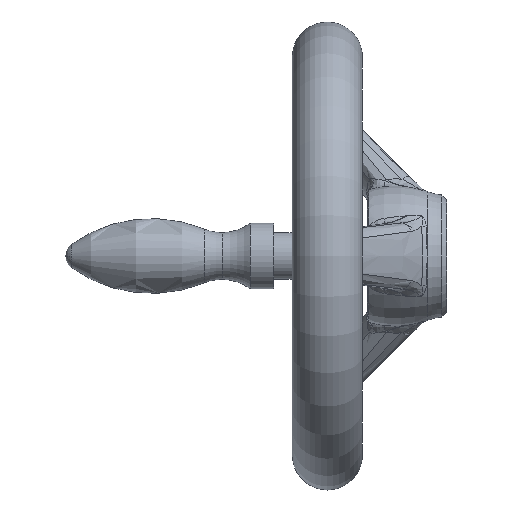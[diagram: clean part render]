
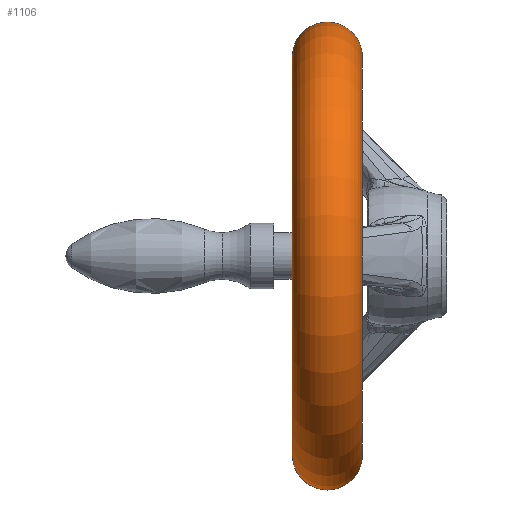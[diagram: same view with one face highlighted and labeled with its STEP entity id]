
A CAD part, left-side view. The second image highlights one B-rep face of the part: STEP entity #1106.
In plain terms, the highlighted toroidal (fillet/blend) face has major radius 42.5 mm and minor radius 7.5 mm.
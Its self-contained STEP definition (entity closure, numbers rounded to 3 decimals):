
#1102 = EDGE_LOOP ( 'NONE', ( #1949, #19471, #19548, #19532 ) ) ;
#1106 = ADVANCED_FACE ( 'NONE', ( #16532 ), #16557, .T. ) ;
#1949 = ORIENTED_EDGE ( 'NONE', *, *, #15662, .F. ) ;
#10090 = CARTESIAN_POINT ( 'NONE',  ( 0., 18., 42.5 ) ) ;
#10095 = CARTESIAN_POINT ( 'NONE',  ( 0., 18., 0. ) ) ;
#10096 = CARTESIAN_POINT ( 'NONE',  ( 0., 18., -42.5 ) ) ;
#10250 = DIRECTION ( 'NONE',  ( 0., 0., -1. ) ) ;
#10251 = AXIS2_PLACEMENT_3D ( 'NONE', #10095, #10257, #10250 ) ;
#10253 = CIRCLE ( 'NONE', #10251, 42.5 ) ;
#10257 = DIRECTION ( 'NONE',  ( 0., -1., 0. ) ) ;
#10394 = DIRECTION ( 'NONE',  ( 0., 0., 1. ) ) ;
#10395 = DIRECTION ( 'NONE',  ( -1., 0., 0. ) ) ;
#10396 = CARTESIAN_POINT ( 'NONE',  ( 0., 25.5, -42.5 ) ) ;
#10397 = AXIS2_PLACEMENT_3D ( 'NONE', #10396, #10395, #10394 ) ;
#10405 = CIRCLE ( 'NONE', #10397, 7.5 ) ;
#10723 = CARTESIAN_POINT ( 'NONE',  ( 0., 33., -42.5 ) ) ;
#10735 = DIRECTION ( 'NONE',  ( 0., 0., -1. ) ) ;
#10736 = DIRECTION ( 'NONE',  ( 1., 0., 0. ) ) ;
#10737 = CARTESIAN_POINT ( 'NONE',  ( 0., 25.5, 42.5 ) ) ;
#10738 = AXIS2_PLACEMENT_3D ( 'NONE', #10737, #10736, #10735 ) ;
#10739 = CIRCLE ( 'NONE', #10738, 7.5 ) ;
#10754 = CARTESIAN_POINT ( 'NONE',  ( 0., 33., 42.5 ) ) ;
#10760 = DIRECTION ( 'NONE',  ( 0., 0., -1. ) ) ;
#10761 = AXIS2_PLACEMENT_3D ( 'NONE', #10767, #10775, #10760 ) ;
#10767 = CARTESIAN_POINT ( 'NONE',  ( 0., 33., 0. ) ) ;
#10772 = CIRCLE ( 'NONE', #10761, 42.5 ) ;
#10775 = DIRECTION ( 'NONE',  ( 0., -1., 0. ) ) ;
#15427 = EDGE_CURVE ( 'NONE', #15429, #15428, #10253, .T. ) ;
#15428 = VERTEX_POINT ( 'NONE', #10096 ) ;
#15429 = VERTEX_POINT ( 'NONE', #10090 ) ;
#15527 = EDGE_CURVE ( 'NONE', #15671, #15428, #10405, .T. ) ;
#15662 = EDGE_CURVE ( 'NONE', #15689, #15429, #10739, .T. ) ;
#15671 = VERTEX_POINT ( 'NONE', #10723 ) ;
#15682 = EDGE_CURVE ( 'NONE', #15689, #15671, #10772, .T. ) ;
#15689 = VERTEX_POINT ( 'NONE', #10754 ) ;
#16528 = DIRECTION ( 'NONE',  ( 0., -1., 0. ) ) ;
#16530 = DIRECTION ( 'NONE',  ( 0., 0., -1. ) ) ;
#16531 = CARTESIAN_POINT ( 'NONE',  ( 0., 25.5, 0. ) ) ;
#16532 = FACE_OUTER_BOUND ( 'NONE', #1102, .T. ) ;
#16533 = AXIS2_PLACEMENT_3D ( 'NONE', #16531, #16528, #16530 ) ;
#16557 = TOROIDAL_SURFACE ( 'NONE', #16533, 42.5, 7.5 ) ;
#19471 = ORIENTED_EDGE ( 'NONE', *, *, #15682, .T. ) ;
#19532 = ORIENTED_EDGE ( 'NONE', *, *, #15427, .F. ) ;
#19548 = ORIENTED_EDGE ( 'NONE', *, *, #15527, .T. ) ;
